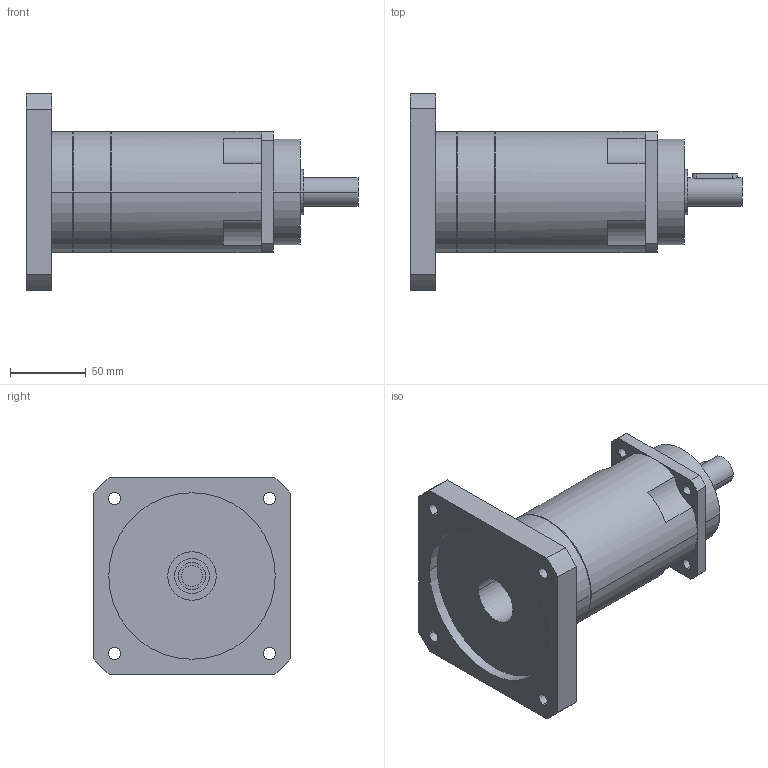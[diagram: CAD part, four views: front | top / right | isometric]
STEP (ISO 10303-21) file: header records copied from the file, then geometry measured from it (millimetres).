
FILE_DESCRIPTION(('CoCreate Modeling STEP Export'),'2;1');
FILE_NAME('GPR100_ig-48-64-80-100-120-144-180-216_19_B5_14_P18.stp','2014-08-26T11:55:12',(''),(''),'CoCreate Modeling STEP processor for AP214 (Solid Model)','CoCreate Modeling 16.00C 25-Feb-2009 (C) Parametric Technology GmbH','');
FILE_SCHEMA(('AUTOMOTIVE_DESIGN { 1 0 10303 214 1 1 1 1 }'));
Length unit declared in the file: millimetre
Products named in the file (2): GPR100_ig-48-64-80-100-120-144-180-216_19_B5_14_P18
Assembly tree (1 placements, depth 2):
  GPR100_ig-48-64-80-100-120-144-180-216_19_B5_14_P18
    GPR100_ig-48-64-80-100-120-144-180-216_19_B5_14_P18
Bounding box: 219.4 x 130 x 130 mm (x, y, z)
Volume: 1009528.8 mm3; surface area: 97478.3 mm2
Topology: 1 solids, 1 shells, 92 faces, 254 edges, 174 vertices
Faces by surface type: cylinder 54, plane 32, cone 6
Entity records: 2682 total; most frequent: ORIENTED_EDGE 504, CARTESIAN_POINT 485, DIRECTION 396, EDGE_CURVE 252, VERTEX_POINT 174, AXIS2_PLACEMENT_3D 149, EDGE_LOOP 120, VECTOR 98
